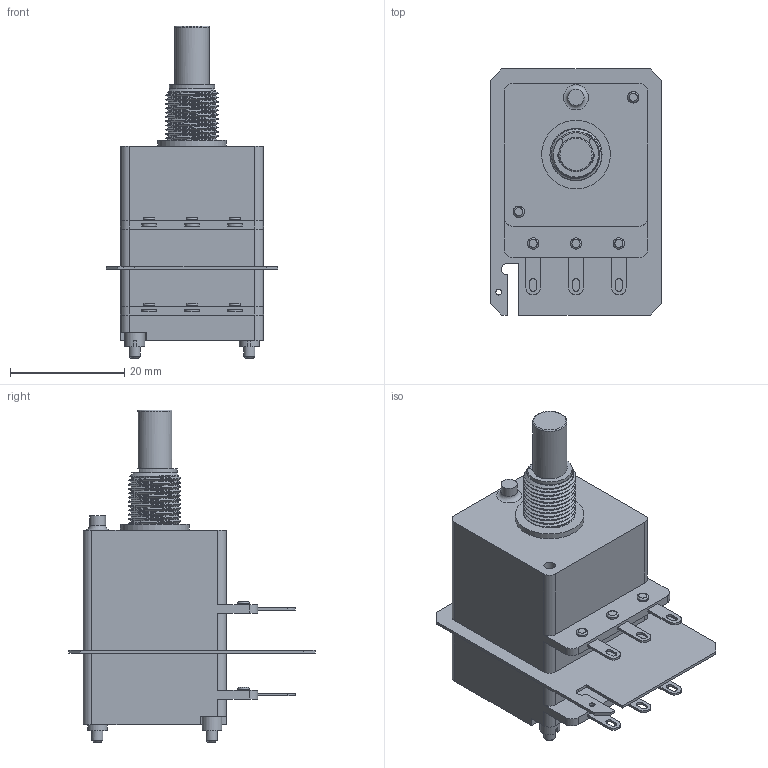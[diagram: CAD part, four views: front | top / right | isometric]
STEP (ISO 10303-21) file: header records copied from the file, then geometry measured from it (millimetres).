
FILE_DESCRIPTION(('FreeCAD Model'),'2;1');
FILE_NAME('Open CASCADE Shape Model','2026-07-14T17:15:09',(''),(''), 'Open CASCADE STEP processor 7.8','FreeCAD','Unknown');
FILE_SCHEMA(('AUTOMOTIVE_DESIGN { 1 0 10303 214 1 1 1 1 }'));
Length unit declared in the file: millimetre
Products named in the file (1): 2CP25XX-S-6R20
Bounding box: 30 x 43 x 58 mm (x, y, z)
Volume: 22732.7 mm3; surface area: 8577 mm2
Topology: 1 solids, 10 shells, 294 faces, 739 edges, 484 vertices
Faces by surface type: plane 153, cylinder 89, bspline 38, torus 8, cone 6
Full cylindrical faces by diameter (mm): 1 x1, 1.9 x6, 2 x14, 2.2 x8, 2.8 x1, 3.5 x2, 4.5 x2, 5.4 x1, 6 x1, 6.05 x1, 8 x1, 9 x1, 12 x1
Entity records: 14413 total; most frequent: CARTESIAN_POINT 5912, ORIENTED_EDGE 1476, DIRECTION 1433, EDGE_CURVE 738, AXIS2_PLACEMENT_3D 540, VERTEX_POINT 484, LINE 353, VECTOR 353
